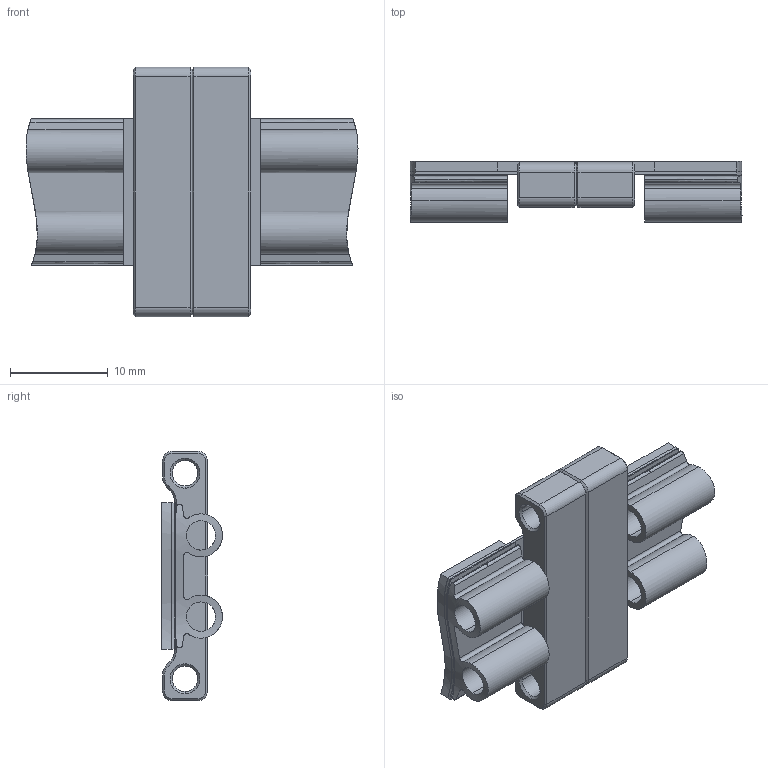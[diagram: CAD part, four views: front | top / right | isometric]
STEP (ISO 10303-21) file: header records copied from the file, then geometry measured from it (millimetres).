
FILE_DESCRIPTION (( 'STEP AP214' ), '1' );
FILE_NAME ('FlexIN_joint.STEP', '2024-10-03T08:33:50', ( '' ), ( '' ), 'SwSTEP 2.0', 'SolidWorks 2022', '' );
FILE_SCHEMA (( 'AUTOMOTIVE_DESIGN' ));
Length unit declared in the file: millimetre
Products named in the file (1): FlexIN_joint
Bounding box: 33.92 x 6.23 x 25.5 mm (x, y, z)
Volume: 2132.8 mm3; surface area: 5137.2 mm2
Topology: 10 solids, 10 shells, 246 faces, 596 edges, 370 vertices
Faces by surface type: plane 106, cylinder 64, cone 60, bspline 16
Entity records: 10489 total; most frequent: CARTESIAN_POINT 1957, ORIENTED_EDGE 1184, DIRECTION 1154, EDGE_CURVE 592, AXIS2_PLACEMENT_3D 399, VERTEX_POINT 370, LINE 356, VECTOR 356
